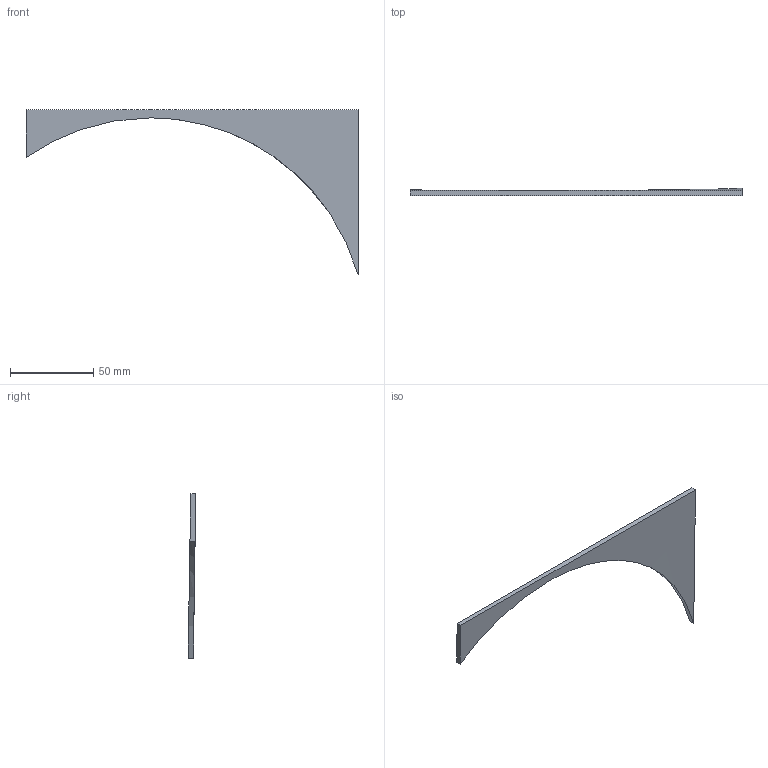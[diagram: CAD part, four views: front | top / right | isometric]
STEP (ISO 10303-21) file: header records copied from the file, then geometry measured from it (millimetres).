
FILE_DESCRIPTION(('Open CASCADE Model'),'2;1');
FILE_NAME('Open CASCADE Shape Model','2026-11-03T04:29:30',('Author'),( 'Open CASCADE'),'Open CASCADE STEP processor 7.8','Open CASCADE 7.8' ,'Unknown');
FILE_SCHEMA(('AUTOMOTIVE_DESIGN { 1 0 10303 214 1 1 1 1 }'));
Length unit declared in the file: millimetre
Products named in the file (1): Open CASCADE STEP translator 7.8 11
Bounding box: 200 x 4.58 x 99.29 mm (x, y, z)
Volume: 14143 mm3; surface area: 11081 mm2
Topology: 1 solids, 1 shells, 7 faces, 15 edges, 10 vertices
Faces by surface type: plane 3, bspline 2, cylinder 2
Entity records: 1104 total; most frequent: CARTESIAN_POINT 843, B_SPLINE_CURVE_WITH_KNOTS 32, ORIENTED_EDGE 30, PCURVE 30, DEFINITIONAL_REPRESENTATION 30, DIRECTION 25, EDGE_CURVE 15, SURFACE_CURVE 15
